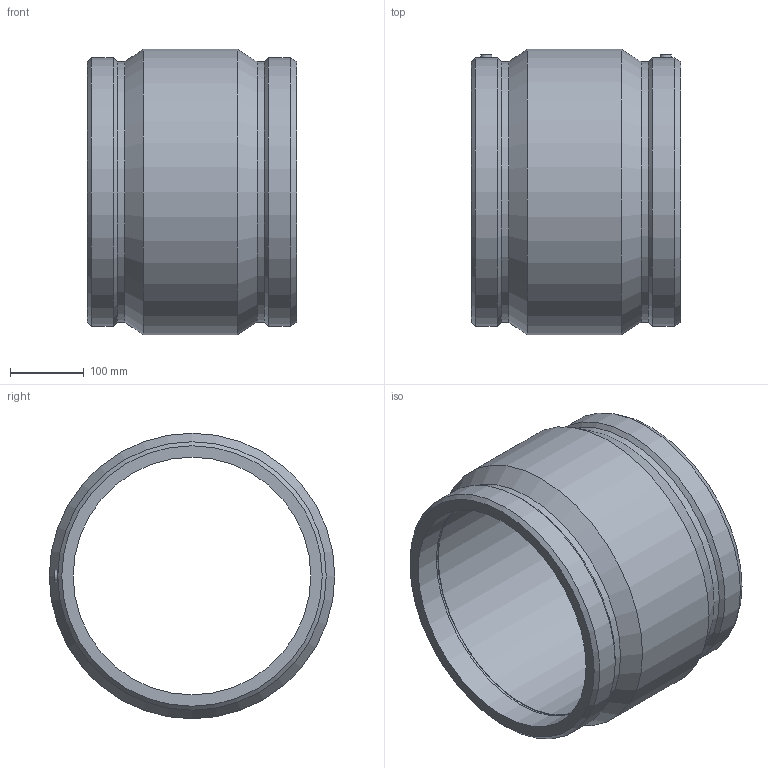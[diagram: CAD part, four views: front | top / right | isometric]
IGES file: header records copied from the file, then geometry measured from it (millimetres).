
Global section: file name: (_AS)5901B003120.ipt; native system: Autodesk Inventor 2019; preprocessor: unknown; author: KIM; date: 20210830.100837; units: inch
Bounding box: 284.48 x 388.62 x 388.62 mm (x, y, z)
Volume: 8198542.7 mm3; surface area: 682483.7 mm2
Topology: 1 solids, 1 shells, 32 faces, 70 edges, 46 vertices
Faces by surface type: plane 10, cone 8, cylinder 7, revolution 7
Full cylindrical faces by diameter (mm): 4 x2, 354.344 x2, 365.303 x2, 388.62 x1
